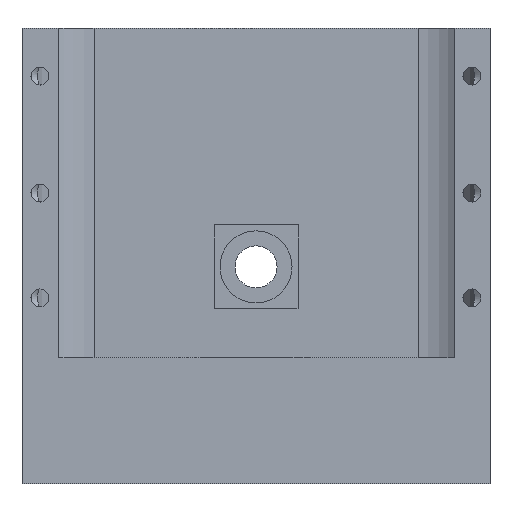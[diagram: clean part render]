
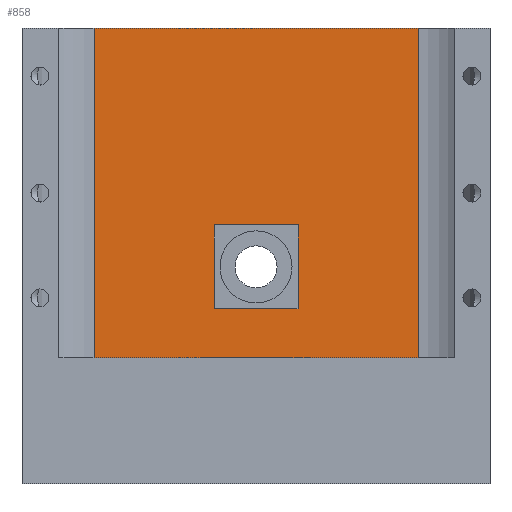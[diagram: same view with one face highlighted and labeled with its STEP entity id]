
A CAD part, front view. The second image highlights one B-rep face of the part: STEP entity #858.
In plain terms, the highlighted planar face has unit normal (0, -1, 0).
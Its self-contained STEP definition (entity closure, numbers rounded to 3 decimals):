
#91=FACE_BOUND('',#260,.T.);
#182=FACE_OUTER_BOUND('',#259,.T.);
#259=EDGE_LOOP('',(#736,#737,#738,#739));
#260=EDGE_LOOP('',(#740,#741,#742,#743));
#302=LINE('',#1242,#354);
#305=LINE('',#1247,#357);
#307=LINE('',#1251,#359);
#308=LINE('',#1253,#360);
#317=LINE('',#1717,#369);
#323=LINE('',#1734,#375);
#327=LINE('',#1747,#379);
#328=LINE('',#1749,#380);
#354=VECTOR('',#1001,14.);
#357=VECTOR('',#1006,14.);
#359=VECTOR('',#1010,14.);
#360=VECTOR('',#1013,14.);
#369=VECTOR('',#1132,54.);
#375=VECTOR('',#1146,54.);
#379=VECTOR('',#1160,54.977);
#380=VECTOR('',#1163,54.977);
#405=VERTEX_POINT('',#1239);
#406=VERTEX_POINT('',#1241);
#407=VERTEX_POINT('',#1245);
#408=VERTEX_POINT('',#1249);
#444=VERTEX_POINT('',#1694);
#454=VERTEX_POINT('',#1715);
#460=VERTEX_POINT('',#1731);
#461=VERTEX_POINT('',#1733);
#489=EDGE_CURVE('',#406,#405,#302,.T.);
#492=EDGE_CURVE('',#405,#407,#305,.T.);
#494=EDGE_CURVE('',#407,#408,#307,.T.);
#495=EDGE_CURVE('',#408,#406,#308,.T.);
#553=EDGE_CURVE('',#454,#444,#317,.T.);
#561=EDGE_CURVE('',#460,#461,#323,.T.);
#568=EDGE_CURVE('',#444,#460,#327,.T.);
#569=EDGE_CURVE('',#461,#454,#328,.T.);
#736=ORIENTED_EDGE('',*,*,#568,.F.);
#737=ORIENTED_EDGE('',*,*,#553,.F.);
#738=ORIENTED_EDGE('',*,*,#569,.F.);
#739=ORIENTED_EDGE('',*,*,#561,.F.);
#740=ORIENTED_EDGE('',*,*,#489,.T.);
#741=ORIENTED_EDGE('',*,*,#492,.T.);
#742=ORIENTED_EDGE('',*,*,#494,.T.);
#743=ORIENTED_EDGE('',*,*,#495,.T.);
#810=PLANE('',#948);
#858=ADVANCED_FACE('',(#182,#91),#810,.T.);
#948=AXIS2_PLACEMENT_3D('',#1748,#1161,#1162);
#1001=DIRECTION('',(1.,0.,0.));
#1006=DIRECTION('',(0.,0.,-1.));
#1010=DIRECTION('',(-1.,0.,0.));
#1013=DIRECTION('',(0.,0.,1.));
#1132=DIRECTION('',(1.,0.,0.));
#1146=DIRECTION('',(-1.,0.,0.));
#1160=DIRECTION('',(0.,0.,-1.));
#1161=DIRECTION('center_axis',(0.,-1.,0.));
#1162=DIRECTION('ref_axis',(1.,0.,0.));
#1163=DIRECTION('',(0.,0.,1.));
#1239=CARTESIAN_POINT('',(7.,4.6,43.18));
#1241=CARTESIAN_POINT('',(-7.,4.6,43.18));
#1242=CARTESIAN_POINT('',(-12.365,4.6,43.18));
#1245=CARTESIAN_POINT('',(7.,4.6,29.18));
#1247=CARTESIAN_POINT('',(7.,4.6,25.09));
#1249=CARTESIAN_POINT('',(-7.,4.6,29.18));
#1251=CARTESIAN_POINT('',(-19.365,4.6,29.18));
#1253=CARTESIAN_POINT('',(-7.,4.6,32.09));
#1694=CARTESIAN_POINT('',(27.,4.6,75.977));
#1715=CARTESIAN_POINT('',(-27.,4.6,75.977));
#1717=CARTESIAN_POINT('',(10.961,4.6,75.977));
#1731=CARTESIAN_POINT('',(27.,4.6,21.));
#1733=CARTESIAN_POINT('',(-27.,4.6,21.));
#1734=CARTESIAN_POINT('',(-15.865,4.6,21.));
#1747=CARTESIAN_POINT('',(27.,4.6,21.));
#1748=CARTESIAN_POINT('Origin',(-31.73,4.6,21.));
#1749=CARTESIAN_POINT('',(-27.,4.6,21.));
